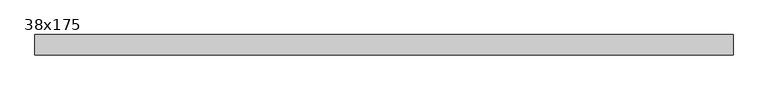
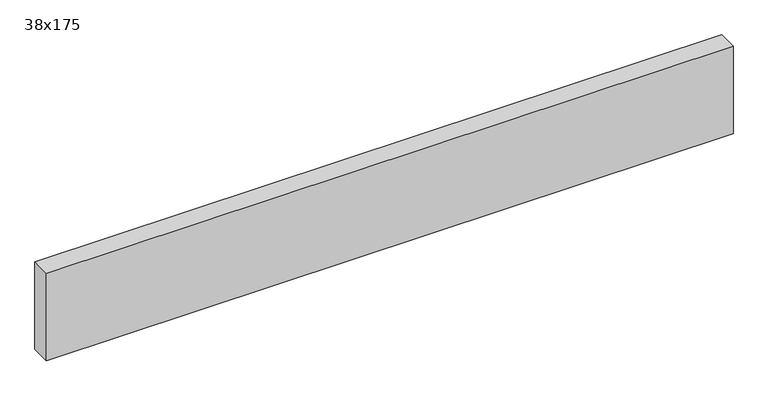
"""IFC4 building model written with IfcOpenShell, lengths in millimetres: beam geometry, Graded Timber : 38x175."""

from ifc_helpers import new_model, si_unit, frame, origin, place, context, project, spatial, polyline, outline, extrude, source, transform, mapped, element, save


def beam_38x175_de619a9e(model_context):
    return source(origin(), model_context, "Body", "SweptSolid", [
        extrude(outline(polyline([(627.0, 19.0), (627.0, -19.0), (-674.0, -19.0), (-674.0, 19.0), (627.0, 19.0)])), frame((0.0, 0.0, -87.5), z_axis=(0.0, 0.0, 1.0), x_axis=(1.0, 0.0, 0.0)), (0.0, 0.0, 1.0), 175.0),
    ])


if __name__ == "__main__":
    model = new_model("IFC4")
    model_context = context("Model", 3, world=origin())
    ifc_project = project(units=[si_unit("LENGTHUNIT", "METRE", prefix="MILLI")], contexts=[model_context])
    site = spatial("IfcSite", under=ifc_project)
    building = spatial("IfcBuilding", under=site)
    placement = place(None, origin())
    beam_38x175_shape = beam_38x175_de619a9e(model_context)
    element("IfcBeam", 1, ObjectType="Graded Timber : 38x175", at=placement, inside=building, context=model_context, shape_type="MappedRepresentation", body=[
        mapped(beam_38x175_shape, transform((0.0, 0.0, 0.0), x_axis=(1.0, 0.0, 0.0), y_axis=(0.0, 1.0, 0.0), z_axis=(0.0, 0.0, 1.0))),
    ])
    save(model, "model.ifc")
